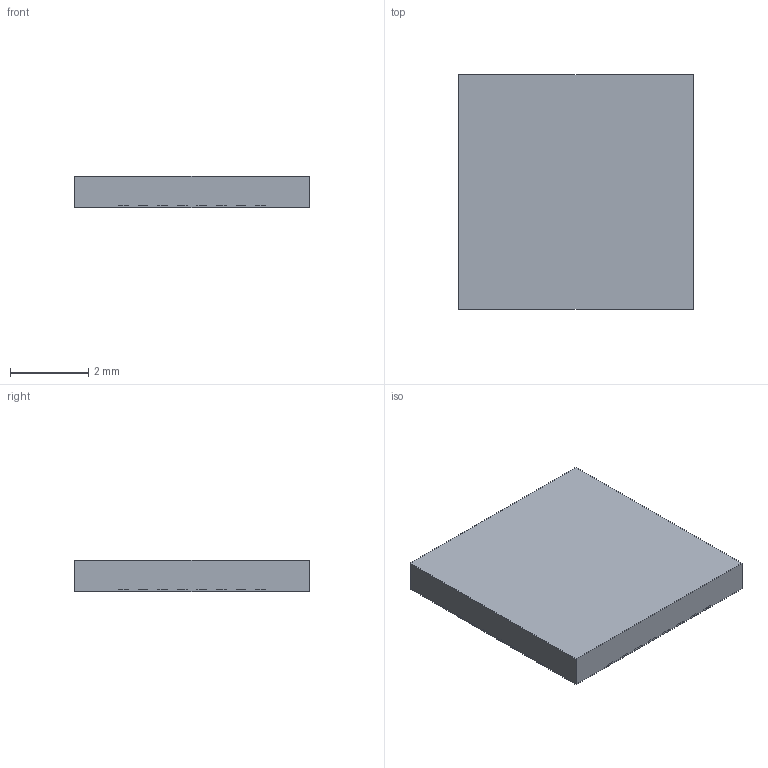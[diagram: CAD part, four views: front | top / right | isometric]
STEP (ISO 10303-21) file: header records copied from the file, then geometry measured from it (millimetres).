
FILE_DESCRIPTION(('shape.step'),'2;1');
FILE_NAME('shape.step','2026-11-04',('tscircuit'),('tscircuit'),'generator','','');
FILE_SCHEMA(('AUTOMOTIVE_DESIGN { 1 0 10303 214 1 1 1 1 }'));
Length unit declared in the file: millimetre
Products named in the file (1): shape
Bounding box: 6 x 6 x 0.8 mm (x, y, z)
Volume: 29.2 mm3; surface area: 108.8 mm2
Topology: 33 solids, 33 shells, 198 faces, 396 edges, 264 vertices
Faces by surface type: plane 198
Entity records: 4569 total; most frequent: DIRECTION 794, ORIENTED_EDGE 792, CARTESIAN_POINT 463, VECTOR 396, LINE 396, EDGE_CURVE 396, VERTEX_POINT 264, AXIS2_PLACEMENT_3D 199
